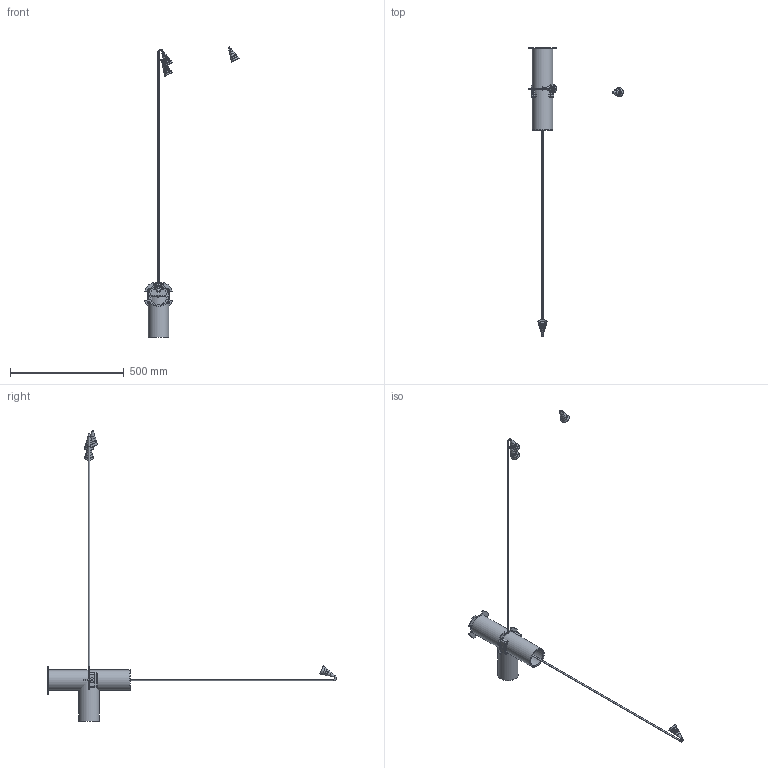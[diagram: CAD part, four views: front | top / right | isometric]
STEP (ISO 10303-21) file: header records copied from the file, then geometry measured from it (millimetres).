
FILE_DESCRIPTION( ( 'Unknown' ), '1' );
FILE_NAME( 'C:/Users/id1/Desktop/Marga/4630.stp', 'Unknown', ( 'Unknown' ), ( 'Unknown' ), 'PSStep 13.0', 'Unknown', ' ' );
FILE_SCHEMA( ( 'AUTOMOTIVE_DESIGN { 1 0 10303 214 1 1 1 1 }' ) );
Length unit declared in the file: millimetre
Products named in the file (35): Assem1; cjto prensaestopas laton m20; Rotula Individual Recta; 575 PCB; XXXXBRI-oa1; 8990897; XXXX564-Disipador; Lente Khatod PL1145; din934 m 6; din439 m 6; XXXX561; 5645913; Lente Khatod PL1145-oa0; 5691837; 5613435; 5613436; 5613437; 5691064 arand nylon Ø11.8x6.25x0.5; 5617497_DIN125_A6_INOX; ContraTaco Antigiro Revol; ContraTaco Revol; Taco Revol Inf; Taco Revol Sup; 5617177_prensaestopa laton M20 6-12 cable ; 5691621 junta torica m20x1.5; 5617178_tuerca de sellado M20; 5645739.88; 5617404 din7991 m 4x12 inox; 5751566_Driver LD-VU5012-01 6W 12V EVERSHINING; 5751027_terminal din 46234 TT D4; 5617067 arandela dent din6798 ﾘ 4,3; 5617019_M4x6_DIN7985_cinc; 5617077 din6798 A ﾘ 5,3; 562 Individual Sup
Bounding box: 416.48 x 1268.49 x 1275.2 mm (x, y, z)
Volume: 727565.6 mm3; surface area: 768740.2 mm2
Topology: 98 solids, 98 shells, 2200 faces, 5326 edges, 3435 vertices
Faces by surface type: plane 1157, cylinder 737, sphere 159, cone 82, torus 61, bspline 4
Full cylindrical faces by diameter (mm): 2 x38, 2.459 x12, 2.95 x36, 3 x5, 3.242 x11, 3.25 x10, 3.5 x2, 4 x14, 4.3 x2, 4.35 x2, 4.5 x10, 4.917 x3, 5.3 x2, 6 x33, 6.2 x3, 6.25 x5, 6.4 x3, 6.5 x12, 7 x8, 8 x2, 9 x4, 11.8 x5, 12 x14, 12.5 x4, 17 x8, 20 x16, 20.5 x4, 21 x3, 21.73 x9, 22 x8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
Entity records: 26682 total; most frequent: CARTESIAN_POINT 3881, DIRECTION 3747, ORIENTED_EDGE 3162, EDGE_CURVE 1581, AXIS2_PLACEMENT_3D 1423, VERTEX_POINT 1093, EDGE_LOOP 974, LINE 901
